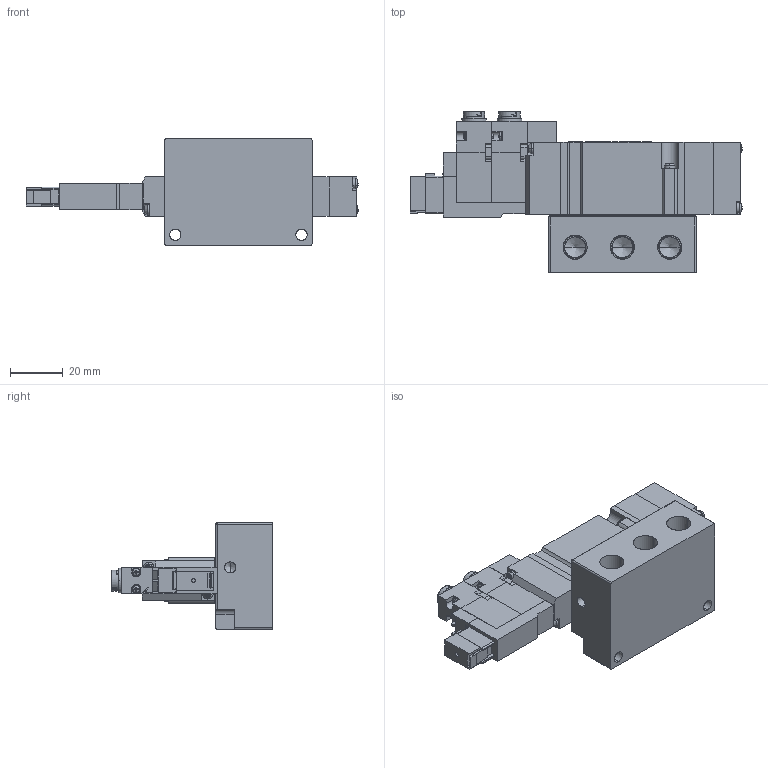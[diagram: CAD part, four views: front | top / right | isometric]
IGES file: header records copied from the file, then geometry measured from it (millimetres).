
Start section: SolidWorks IGES file using analytic representation for surfaces
Global section: file name: D:\Custom\3D繪製\ADEX\A12G\A12GD35#-#-#-E.IGS,1; native system: 5HSolidWorks 2014; preprocessor: SolidWorks 2014; author: Chieh_Lu; date: 150809.155646; units: millimetre
Bounding box: 126.3 x 61.1 x 40.5 mm (x, y, z)
Surface area: 33032.7 mm2 (no closed solid volume)
Topology: 0 solids, 0 shells, 1088 faces, 9092 edges, 9052 vertices
Faces by surface type: bspline 746, revolution 342
